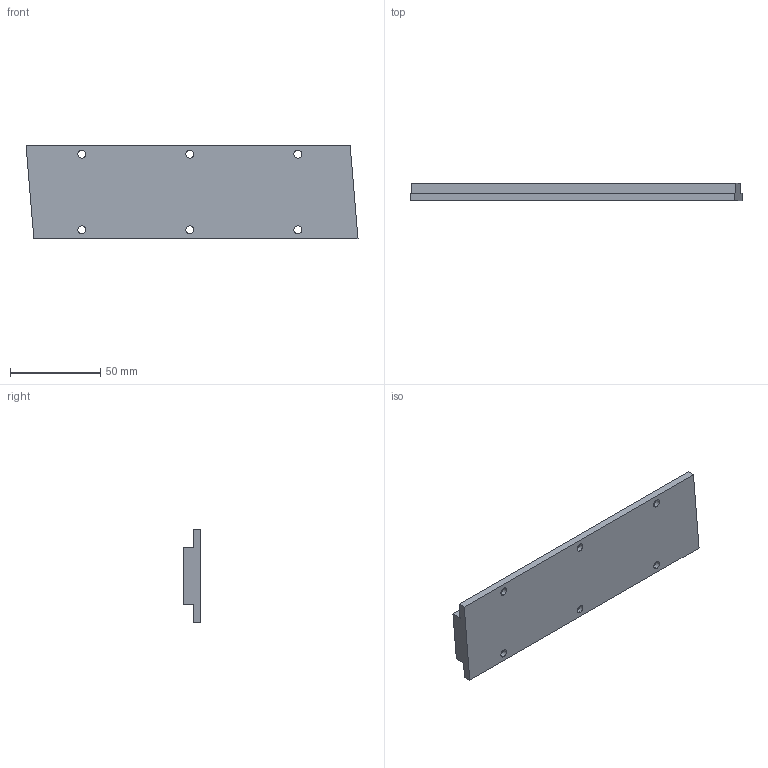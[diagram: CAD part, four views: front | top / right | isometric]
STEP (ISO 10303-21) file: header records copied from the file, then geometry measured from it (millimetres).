
FILE_DESCRIPTION (( 'STEP AP214' ), '1' );
FILE_NAME ('LMSA1S2E.STEP', '2013-07-17T08:17:23', ( ' ' ), ( '' ), 'SwSTEP 2.0', 'SolidWorks 2010', '' );
FILE_SCHEMA (( 'AUTOMOTIVE_DESIGN' ));
Length unit declared in the file: millimetre
Products named in the file (1): LMSA1S2E
Bounding box: 184.36 x 9.7 x 52 mm (x, y, z)
Volume: 69728.7 mm3; surface area: 23258.1 mm2
Topology: 1 solids, 1 shells, 67 faces, 171 edges, 114 vertices
Faces by surface type: plane 32, cylinder 24, bspline 11
Entity records: 2881 total; most frequent: CARTESIAN_POINT 1220, ORIENTED_EDGE 342, DIRECTION 311, EDGE_CURVE 171, VERTEX_POINT 114, AXIS2_PLACEMENT_3D 105, LINE 101, VECTOR 101
